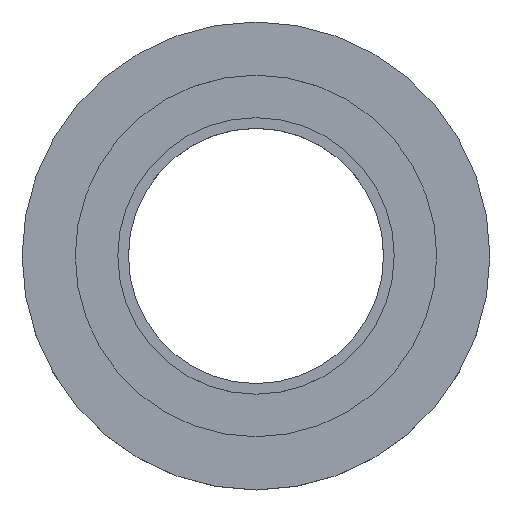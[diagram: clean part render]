
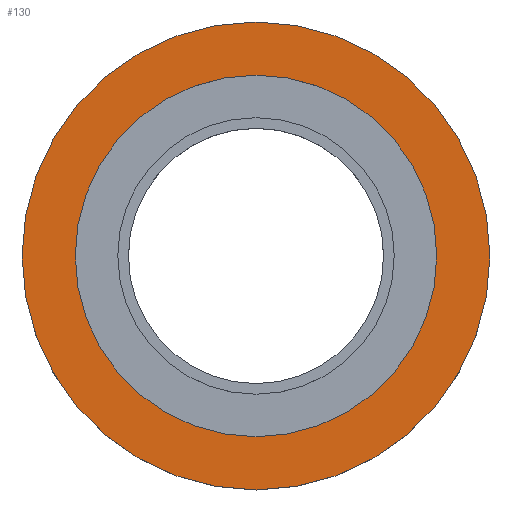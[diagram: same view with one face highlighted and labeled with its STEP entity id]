
A CAD part, top view. The second image highlights one B-rep face of the part: STEP entity #130.
In plain terms, the highlighted planar face has unit normal (0, 0, 1).
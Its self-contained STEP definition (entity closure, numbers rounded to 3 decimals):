
#28=FACE_BOUND('',#44,.T.);
#34=FACE_OUTER_BOUND('',#43,.T.);
#43=EDGE_LOOP('',(#104,#105));
#44=EDGE_LOOP('',(#106));
#54=CIRCLE('',#160,8.5);
#55=CIRCLE('',#162,11.);
#56=CIRCLE('',#163,11.);
#66=VERTEX_POINT('',#230);
#67=VERTEX_POINT('',#234);
#68=VERTEX_POINT('',#235);
#78=EDGE_CURVE('',#66,#66,#54,.T.);
#80=EDGE_CURVE('',#67,#68,#55,.T.);
#81=EDGE_CURVE('',#68,#67,#56,.T.);
#104=ORIENTED_EDGE('',*,*,#80,.T.);
#105=ORIENTED_EDGE('',*,*,#81,.T.);
#106=ORIENTED_EDGE('',*,*,#78,.T.);
#124=PLANE('',#166);
#130=ADVANCED_FACE('',(#34,#28),#124,.T.);
#160=AXIS2_PLACEMENT_3D('',#231,#187,#188);
#162=AXIS2_PLACEMENT_3D('',#236,#192,#193);
#163=AXIS2_PLACEMENT_3D('',#237,#194,#195);
#166=AXIS2_PLACEMENT_3D('',#243,#201,#202);
#187=DIRECTION('center_axis',(0.,0.,-1.));
#188=DIRECTION('ref_axis',(-1.,0.,0.));
#192=DIRECTION('center_axis',(0.,0.,1.));
#193=DIRECTION('ref_axis',(1.,0.,0.));
#194=DIRECTION('center_axis',(0.,0.,1.));
#195=DIRECTION('ref_axis',(1.,0.,0.));
#201=DIRECTION('center_axis',(0.,0.,1.));
#202=DIRECTION('ref_axis',(1.,0.,0.));
#230=CARTESIAN_POINT('',(8.5,0.,1.5));
#231=CARTESIAN_POINT('Origin',(0.,0.,1.5));
#234=CARTESIAN_POINT('',(11.,0.,1.5));
#235=CARTESIAN_POINT('',(-11.,0.,1.5));
#236=CARTESIAN_POINT('Origin',(0.,0.,1.5));
#237=CARTESIAN_POINT('Origin',(0.,0.,1.5));
#243=CARTESIAN_POINT('Origin',(0.,0.,1.5));
